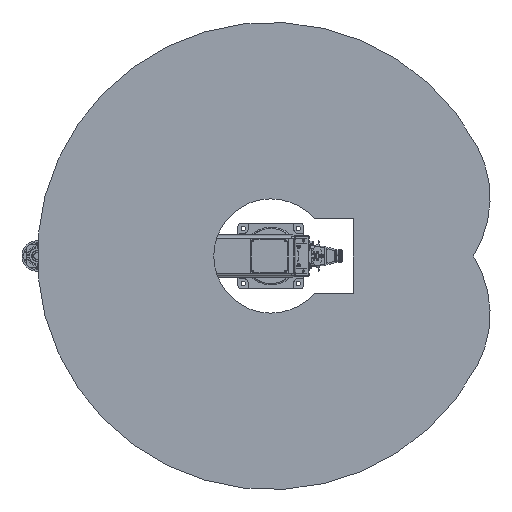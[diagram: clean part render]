
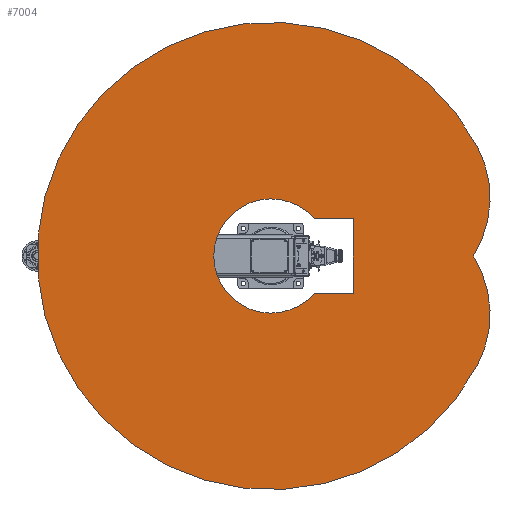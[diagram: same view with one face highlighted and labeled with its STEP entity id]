
A CAD part, front view. The second image highlights one B-rep face of the part: STEP entity #7004.
In plain terms, the highlighted planar face has unit normal (0, -1, 0).
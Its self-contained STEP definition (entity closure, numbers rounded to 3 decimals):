
#7004 = ADVANCED_FACE( '', ( #15112, #15113 ), #15114, .F. );
#15112 = FACE_BOUND( '', #24579, .T. );
#15113 = FACE_OUTER_BOUND( '', #24580, .T. );
#15114 = PLANE( '', #24581 );
#24579 = EDGE_LOOP( '', ( #43988, #43989, #43990, #43991 ) );
#24580 = EDGE_LOOP( '', ( #43992, #43993, #43994 ) );
#24581 = AXIS2_PLACEMENT_3D( '', #43995, #43996, #43997 );
#43988 = ORIENTED_EDGE( '', *, *, #50170, .T. );
#43989 = ORIENTED_EDGE( '', *, *, #53548, .T. );
#43990 = ORIENTED_EDGE( '', *, *, #49752, .T. );
#43991 = ORIENTED_EDGE( '', *, *, #52524, .T. );
#43992 = ORIENTED_EDGE( '', *, *, #51597, .F. );
#43993 = ORIENTED_EDGE( '', *, *, #52358, .F. );
#43994 = ORIENTED_EDGE( '', *, *, #48473, .F. );
#43995 = CARTESIAN_POINT( '', ( 105.631, 0., 198.663 ) );
#43996 = DIRECTION( '', ( 0., 1., 0. ) );
#43997 = DIRECTION( '', ( 0., 0., 1. ) );
#48473 = EDGE_CURVE( '', #57779, #57780, #57781, .T. );
#49752 = EDGE_CURVE( '', #59865, #59866, #59867, .T. );
#50170 = EDGE_CURVE( '', #60525, #60526, #60527, .T. );
#51597 = EDGE_CURVE( '', #62692, #57779, #62693, .T. );
#52358 = EDGE_CURVE( '', #57780, #62692, #63740, .T. );
#52524 = EDGE_CURVE( '', #59866, #60525, #63952, .T. );
#53548 = EDGE_CURVE( '', #60526, #59865, #65256, .T. );
#57779 = VERTEX_POINT( '', #71566 );
#57780 = VERTEX_POINT( '', #71567 );
#57781 = CIRCLE( '', #71568, 850. );
#59865 = VERTEX_POINT( '', #75056 );
#59866 = VERTEX_POINT( '', #75057 );
#59867 = LINE( '', #75058, #75059 );
#60525 = VERTEX_POINT( '', #76246 );
#60526 = VERTEX_POINT( '', #76247 );
#60527 = LINE( '', #76248, #76249 );
#62692 = VERTEX_POINT( '', #79868 );
#62693 = CIRCLE( '', #79869, 400. );
#63740 = CIRCLE( '', #81674, 400. );
#63952 = LINE( '', #82093, #82094 );
#65256 = CIRCLE( '', #84590, 207.8 );
#71566 = CARTESIAN_POINT( '', ( 399.051, 0., 750.505 ) );
#71567 = CARTESIAN_POINT( '', ( -399.051, 0., 750.505 ) );
#71568 = AXIS2_PLACEMENT_3D( '', #88704, #88705, #88706 );
#75056 = CARTESIAN_POINT( '', ( -135., 0., 157.974 ) );
#75057 = CARTESIAN_POINT( '', ( -135., 0., 300. ) );
#75058 = CARTESIAN_POINT( '', ( -135., 0., 157.974 ) );
#75059 = VECTOR( '', #90179, 1000. );
#76246 = CARTESIAN_POINT( '', ( 135., 0., 300. ) );
#76247 = CARTESIAN_POINT( '', ( 135., 0., 157.974 ) );
#76248 = CARTESIAN_POINT( '', ( 135., 0., 300. ) );
#76249 = VECTOR( '', #90661, 1000. );
#79868 = CARTESIAN_POINT( '', ( 0., 0., 736.985 ) );
#79869 = AXIS2_PLACEMENT_3D( '', #92388, #92389, #92390 );
#81674 = AXIS2_PLACEMENT_3D( '', #93271, #93272, #93273 );
#82093 = CARTESIAN_POINT( '', ( -135., 0., 300. ) );
#82094 = VECTOR( '', #93447, 1000. );
#84590 = AXIS2_PLACEMENT_3D( '', #94451, #94452, #94453 );
#88704 = CARTESIAN_POINT( '', ( 0., 0., 0. ) );
#88705 = DIRECTION( '', ( 0., 1., 0. ) );
#88706 = DIRECTION( '', ( 1., 0., 0. ) );
#90179 = DIRECTION( '', ( 0., 0., 1. ) );
#90661 = DIRECTION( '', ( 0., 0., -1. ) );
#92388 = CARTESIAN_POINT( '', ( 211.262, 0., 397.326 ) );
#92389 = DIRECTION( '', ( 0., 1., 0. ) );
#92390 = DIRECTION( '', ( 1., 0., 0. ) );
#93271 = CARTESIAN_POINT( '', ( -211.262, 0., 397.326 ) );
#93272 = DIRECTION( '', ( 0., 1., 0. ) );
#93273 = DIRECTION( '', ( 1., 0., 0. ) );
#93447 = DIRECTION( '', ( 1., 0., 0. ) );
#94451 = CARTESIAN_POINT( '', ( 0., 0., 0. ) );
#94452 = DIRECTION( '', ( 0., 1., 0. ) );
#94453 = DIRECTION( '', ( 1., 0., 0. ) );
